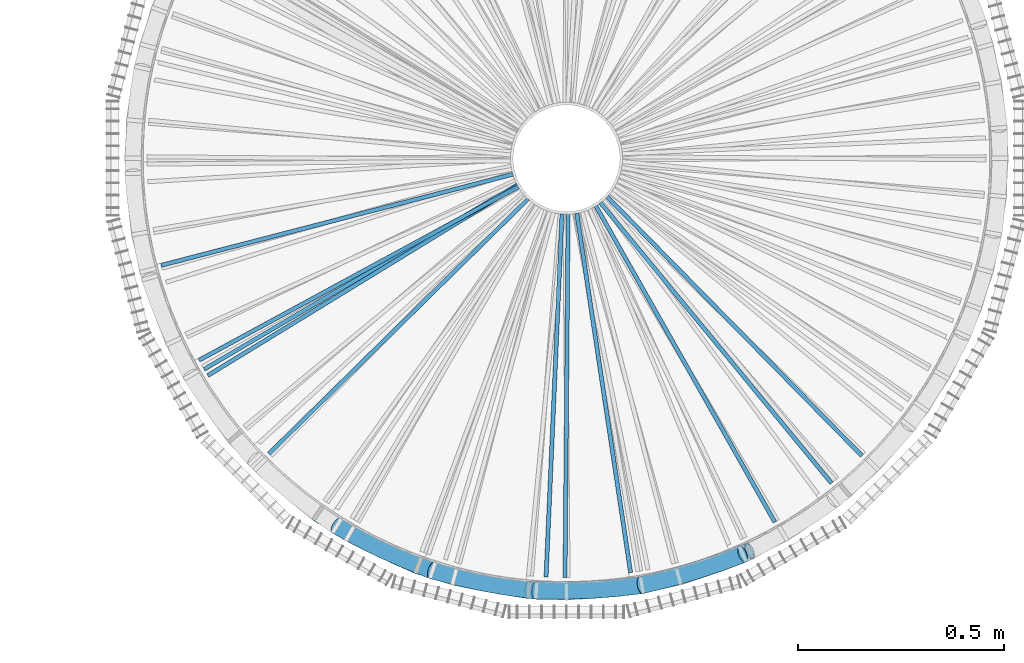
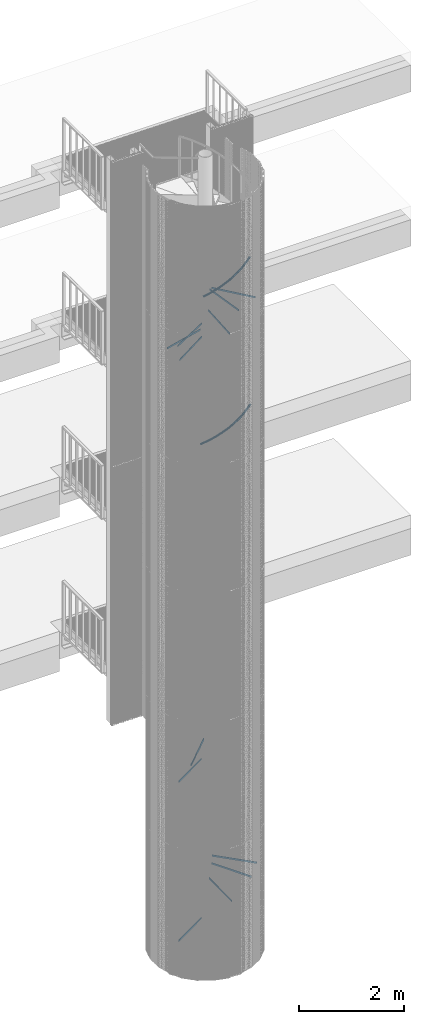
# One storey, part 175 of 1183: 12 beams, 8 members, 10 elements without a shape of their own.
"""IFC2X3 building model written with IfcOpenShell, lengths in millimetres."""

from ifc_helpers import new_model, entity, si_unit, frame, origin_with_axes, origin_2d_with_axis, place, context, subcontext, project, spatial, polyline, rectangle, outline, extrude, boolean, material, type_object, element, aggregate, save


model = new_model("IFC2X3")

# Units and contexts
model_context = context("Model", 3, precision=1e-05, world=origin_with_axes())
body_context = subcontext(model_context, "Body", "Model", "MODEL_VIEW")
ifc_project = project(units=[si_unit("LENGTHUNIT", "METRE", prefix="MILLI"), si_unit("AREAUNIT", "SQUARE_METRE"), si_unit("VOLUMEUNIT", "CUBIC_METRE"), si_unit("MASSUNIT", "GRAM", prefix="KILO"), si_unit("TIMEUNIT", "SECOND"), si_unit("PLANEANGLEUNIT", "RADIAN"), si_unit("SOLIDANGLEUNIT", "STERADIAN"), si_unit("THERMODYNAMICTEMPERATUREUNIT", "DEGREE_CELSIUS"), si_unit("LUMINOUSINTENSITYUNIT", "LUMEN")], contexts=[model_context])

# Site, building, storey
site_placement = place(None, origin_with_axes())
site = spatial("IfcSite", under=ifc_project, at=site_placement, Name="Undefined", CompositionType="ELEMENT")
building_placement = place(site_placement, origin_with_axes())
building = spatial("IfcBuilding", under=site, at=building_placement, Name="Undefined", CompositionType="ELEMENT")
storey_placement = place(building_placement, origin_with_axes())
storey = spatial("IfcBuildingStorey", under=building, at=storey_placement, Name="Undefined", CompositionType="ELEMENT", Elevation=0.0)

# Assembly, beams
assembly_1_placement = place(storey_placement, origin_with_axes())
assembly_1 = element("IfcElementAssembly", 1, at=assembly_1_placement, inside=storey, Name="POTEAU", AssemblyPlace="NOTDEFINED", PredefinedType="NOTDEFINED")
ifc_material = material(Name="STEEL/S235JR")
beam_type = type_object("IfcBeamType", Name="PL10*40", PredefinedType="NOTDEFINED")
beam_1_placement = place(assembly_1_placement, frame((62.3936675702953, -56.3278473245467, 2139.28), z_axis=(0.0, 0.0, 1.0), x_axis=(0.701092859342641, -0.713069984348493, 0.0)))
beam_1 = element("IfcBeam", 2, at=beam_1_placement, type_object=beam_type, material=ifc_material, Name="RAIDISSEUR", context=body_context, shape_type="CSG", body=[
    boolean("DIFFERENCE", extrude(rectangle(XDim=10.0, YDim=40.0, at=origin_2d_with_axis()), frame((935.982964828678, -2.59787459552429e-14, -3.63797880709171e-12), z_axis=(-1.0, 0.0, 0.0), x_axis=(0.0, -1.0, 0.0)), (0.0, 0.0, 1.0), 935.98), extrude(outline(polyline([(0.0, 0.0), (30.5663019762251, -4.91127138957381e-11), (60.366242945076, 6.80164206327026), (87.9055294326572, 20.0638634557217), (111.803226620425, 39.1216410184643), (130.861004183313, 63.0193382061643), (144.123225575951, 90.5586246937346), (150.9248676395, 120.358565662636), (150.924867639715, 150.924867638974), (144.123225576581, 180.724808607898), (130.86100418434, 208.264095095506), (111.803226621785, 232.161792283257), (87.9055294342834, 251.219569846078), (60.3662429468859, 264.481791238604), (30.5663019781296, 271.283433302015), (1.90266291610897e-09, 271.28343330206), (-29.7999409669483, 264.481791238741), (-57.3392274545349, 251.219569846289), (-81.2369246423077, 232.161792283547), (-100.294702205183, 208.26409509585), (-113.556923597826, 180.724808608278), (-120.35856566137, 150.92486763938), (-120.358565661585, 120.358565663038), (-113.556923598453, 90.5586246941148), (-100.294702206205, 63.0193382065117), (-81.2369246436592, 39.1216410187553), (-57.3392274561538, 20.0638634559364), (-29.7999409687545, 6.80164206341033), (0.0, 0.0)])), frame((-182.005487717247, -99.9179528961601, -22.5), z_axis=(0.0, 0.0, 1.0), x_axis=(0.771460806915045, -0.636276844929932, 0.0)), (0.0, 0.0, 1.0), 45.0)),
])
beam_2_placement = place(assembly_1_placement, frame((-56.3278473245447, -62.393667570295, 4920.64), z_axis=(0.0, 0.0, 1.0), x_axis=(-0.713069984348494, -0.70109285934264, 0.0)))
beam_2 = element("IfcBeam", 3, at=beam_2_placement, type_object=beam_type, material=ifc_material, Name="RAIDISSEUR", context=body_context, shape_type="CSG", body=[
    boolean("DIFFERENCE", extrude(rectangle(XDim=10.0, YDim=40.0, at=origin_2d_with_axis()), frame((935.982964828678, -2.59787459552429e-14, -3.63797880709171e-12), z_axis=(-1.0, 0.0, 0.0), x_axis=(0.0, -1.0, 0.0)), (0.0, 0.0, 1.0), 935.98), extrude(outline(polyline([(0.0, 0.0), (30.5663019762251, -4.91127138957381e-11), (60.366242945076, 6.80164206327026), (87.9055294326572, 20.0638634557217), (111.803226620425, 39.1216410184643), (130.861004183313, 63.0193382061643), (144.123225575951, 90.5586246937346), (150.9248676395, 120.358565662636), (150.924867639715, 150.924867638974), (144.123225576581, 180.724808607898), (130.86100418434, 208.264095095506), (111.803226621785, 232.161792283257), (87.9055294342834, 251.219569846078), (60.3662429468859, 264.481791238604), (30.5663019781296, 271.283433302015), (1.90266291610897e-09, 271.28343330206), (-29.7999409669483, 264.481791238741), (-57.3392274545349, 251.219569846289), (-81.2369246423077, 232.161792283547), (-100.294702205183, 208.26409509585), (-113.556923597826, 180.724808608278), (-120.35856566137, 150.92486763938), (-120.358565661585, 120.358565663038), (-113.556923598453, 90.5586246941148), (-100.294702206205, 63.0193382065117), (-81.2369246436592, 39.1216410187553), (-57.3392274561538, 20.0638634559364), (-29.7999409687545, 6.80164206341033), (0.0, 0.0)])), frame((11.0085008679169, -103.09603572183, -22.4999999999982), z_axis=(0.0, 0.0, 1.0), x_axis=(0.636276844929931, 0.771460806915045, 0.0)), (0.0, 0.0, 1.0), 45.0)),
])
beam_3_placement = place(assembly_1_placement, frame((-74.8463745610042, -38.2598530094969, 748.6), z_axis=(0.0, 0.0, 1.0), x_axis=(-0.861759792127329, -0.507316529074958, 0.0)))
beam_3 = element("IfcBeam", 4, at=beam_3_placement, type_object=beam_type, material=ifc_material, Name="RAIDISSEUR", context=body_context, shape_type="CSG", body=[
    boolean("DIFFERENCE", extrude(rectangle(XDim=10.0, YDim=40.0, at=origin_2d_with_axis()), frame((935.982964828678, -2.59787459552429e-14, -3.63797880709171e-12), z_axis=(-1.0, 0.0, 0.0), x_axis=(0.0, -1.0, 0.0)), (0.0, 0.0, 1.0), 935.98), extrude(outline(polyline([(0.0, 0.0), (30.5663019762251, -4.91127138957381e-11), (60.366242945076, 6.80164206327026), (87.9055294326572, 20.0638634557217), (111.803226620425, 39.1216410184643), (130.861004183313, 63.0193382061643), (144.123225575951, 90.5586246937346), (150.9248676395, 120.358565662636), (150.924867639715, 150.924867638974), (144.123225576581, 180.724808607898), (130.86100418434, 208.264095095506), (111.803226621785, 232.161792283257), (87.9055294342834, 251.219569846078), (60.3662429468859, 264.481791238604), (30.5663019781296, 271.283433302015), (1.90266291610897e-09, 271.28343330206), (-29.7999409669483, 264.481791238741), (-57.3392274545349, 251.219569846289), (-81.2369246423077, 232.161792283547), (-100.294702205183, 208.26409509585), (-113.556923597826, 180.724808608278), (-120.35856566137, 150.92486763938), (-120.358565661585, 120.358565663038), (-113.556923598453, 90.5586246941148), (-100.294702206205, 63.0193382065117), (-81.2369246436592, 39.1216410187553), (-57.3392274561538, 20.0638634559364), (-29.7999409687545, 6.80164206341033), (0.0, 0.0)])), frame((31.9577797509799, -67.1597852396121, -22.5000000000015), z_axis=(0.0, 0.0, 1.0), x_axis=(0.430278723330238, 0.902696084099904, 0.0)), (0.0, 0.0, 1.0), 45.0)),
])
beam_4_placement = place(assembly_1_placement, frame((4.28918262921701, -83.9487882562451, 1675.72), z_axis=(0.0, 0.0, 1.0), x_axis=(-0.00846910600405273, -0.99996413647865, 0.0)))
beam_4 = element("IfcBeam", 5, at=beam_4_placement, type_object=beam_type, material=ifc_material, Name="RAIDISSEUR", context=body_context, shape_type="CSG", body=[
    boolean("DIFFERENCE", extrude(rectangle(XDim=10.0, YDim=40.0, at=origin_2d_with_axis()), frame((935.982964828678, -2.59787459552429e-14, -3.63797880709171e-12), z_axis=(-1.0, 0.0, 0.0), x_axis=(0.0, -1.0, 0.0)), (0.0, 0.0, 1.0), 935.98), extrude(outline(polyline([(0.0, 0.0), (30.5663019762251, -4.91127138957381e-11), (60.366242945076, 6.80164206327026), (87.9055294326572, 20.0638634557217), (111.803226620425, 39.1216410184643), (130.861004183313, 63.0193382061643), (144.123225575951, 90.5586246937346), (150.9248676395, 120.358565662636), (150.924867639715, 150.924867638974), (144.123225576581, 180.724808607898), (130.86100418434, 208.264095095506), (111.803226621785, 232.161792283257), (87.9055294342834, 251.219569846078), (60.3662429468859, 264.481791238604), (30.5663019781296, 271.283433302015), (1.90266291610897e-09, 271.28343330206), (-29.7999409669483, 264.481791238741), (-57.3392274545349, 251.219569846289), (-81.2369246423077, 232.161792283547), (-100.294702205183, 208.26409509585), (-113.556923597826, 180.724808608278), (-120.35856566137, 150.92486763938), (-120.358565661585, 120.358565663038), (-113.556923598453, 90.5586246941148), (-100.294702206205, 63.0193382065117), (-81.2369246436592, 39.1216410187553), (-57.3392274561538, 20.0638634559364), (-29.7999409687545, 6.80164206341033), (0.0, 0.0)])), frame((-86.1566959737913, -141.48150018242, -22.4999999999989), z_axis=(0.0, 0.0, 1.0), x_axis=(0.995420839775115, 0.0955894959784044, 0.0)), (0.0, 0.0, 1.0), 45.0)),
])
beam_5_placement = place(assembly_1_placement, frame((-74.8463745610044, -38.2598530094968, 4457.08), z_axis=(0.0, 0.0, 1.0), x_axis=(-0.861759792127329, -0.507316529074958, 0.0)))
beam_5 = element("IfcBeam", 6, at=beam_5_placement, type_object=beam_type, material=ifc_material, Name="RAIDISSEUR", context=body_context, shape_type="CSG", body=[
    boolean("DIFFERENCE", extrude(rectangle(XDim=10.0, YDim=40.0, at=origin_2d_with_axis()), frame((935.982964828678, -2.59787459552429e-14, -3.63797880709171e-12), z_axis=(-1.0, 0.0, 0.0), x_axis=(0.0, -1.0, 0.0)), (0.0, 0.0, 1.0), 935.98), extrude(outline(polyline([(0.0, 0.0), (30.5663019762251, -4.91127138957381e-11), (60.366242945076, 6.80164206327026), (87.9055294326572, 20.0638634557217), (111.803226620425, 39.1216410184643), (130.861004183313, 63.0193382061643), (144.123225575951, 90.5586246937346), (150.9248676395, 120.358565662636), (150.924867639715, 150.924867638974), (144.123225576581, 180.724808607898), (130.86100418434, 208.264095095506), (111.803226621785, 232.161792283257), (87.9055294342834, 251.219569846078), (60.3662429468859, 264.481791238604), (30.5663019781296, 271.283433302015), (1.90266291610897e-09, 271.28343330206), (-29.7999409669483, 264.481791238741), (-57.3392274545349, 251.219569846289), (-81.2369246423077, 232.161792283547), (-100.294702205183, 208.26409509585), (-113.556923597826, 180.724808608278), (-120.35856566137, 150.92486763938), (-120.358565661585, 120.358565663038), (-113.556923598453, 90.5586246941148), (-100.294702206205, 63.0193382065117), (-81.2369246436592, 39.1216410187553), (-57.3392274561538, 20.0638634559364), (-29.7999409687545, 6.80164206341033), (0.0, 0.0)])), frame((31.9577797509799, -67.1597852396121, -22.5000000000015), z_axis=(0.0, 0.0, 1.0), x_axis=(0.430278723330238, 0.902696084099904, 0.0)), (0.0, 0.0, 1.0), 45.0)),
])
beam_6_placement = place(assembly_1_placement, frame((45.6889352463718, -70.5571919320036, 1984.76), z_axis=(0.0, 0.0, 1.0), x_axis=(0.492647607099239, -0.870228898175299, 0.0)))
beam_6 = element("IfcBeam", 7, at=beam_6_placement, type_object=beam_type, material=ifc_material, Name="RAIDISSEUR", context=body_context, shape_type="CSG", body=[
    boolean("DIFFERENCE", extrude(rectangle(XDim=10.0, YDim=40.0, at=origin_2d_with_axis()), frame((935.982964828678, -2.59787459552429e-14, -3.63797880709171e-12), z_axis=(-1.0, 0.0, 0.0), x_axis=(0.0, -1.0, 0.0)), (0.0, 0.0, 1.0), 935.98), extrude(outline(polyline([(0.0, 0.0), (30.5663019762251, -4.91127138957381e-11), (60.366242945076, 6.80164206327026), (87.9055294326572, 20.0638634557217), (111.803226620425, 39.1216410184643), (130.861004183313, 63.0193382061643), (144.123225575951, 90.5586246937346), (150.9248676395, 120.358565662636), (150.924867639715, 150.924867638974), (144.123225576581, 180.724808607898), (130.86100418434, 208.264095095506), (111.803226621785, 232.161792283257), (87.9055294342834, 251.219569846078), (60.3662429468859, 264.481791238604), (30.5663019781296, 271.283433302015), (1.90266291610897e-09, 271.28343330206), (-29.7999409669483, 264.481791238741), (-57.3392274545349, 251.219569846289), (-81.2369246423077, 232.161792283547), (-100.294702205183, 208.26409509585), (-113.556923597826, 180.724808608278), (-120.35856566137, 150.92486763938), (-120.358565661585, 120.358565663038), (-113.556923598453, 90.5586246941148), (-100.294702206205, 63.0193382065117), (-81.2369246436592, 39.1216410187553), (-57.3392274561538, 20.0638634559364), (-29.7999409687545, 6.80164206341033), (0.0, 0.0)])), frame((-154.096372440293, -122.072824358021, -22.5000000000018), z_axis=(0.0, 0.0, 1.0), x_axis=(0.909854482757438, -0.414927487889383, 0.0)), (0.0, 0.0, 1.0), 45.0)),
])
aggregate(assembly_1, [beam_1, beam_2, beam_3, beam_4, beam_5, beam_6])

assembly_2_placement = place(storey_placement, origin_with_axes())
assembly_2 = element("IfcElementAssembly", 8, at=assembly_2_placement, inside=storey, Name="POTEAU", AssemblyPlace="NOTDEFINED", PredefinedType="NOTDEFINED")
beam_7_placement = place(assembly_2_placement, frame((-71.3438275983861, -44.450583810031, 14605.12), z_axis=(0.0, 0.0, 1.0), x_axis=(-0.878694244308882, -0.477384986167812, 0.0)))
beam_7 = element("IfcBeam", 9, at=beam_7_placement, type_object=beam_type, material=ifc_material, Name="RAIDISSEUR", context=body_context, shape_type="CSG", body=[
    boolean("DIFFERENCE", extrude(rectangle(XDim=10.0, YDim=40.0, at=origin_2d_with_axis()), frame((935.982964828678, -2.59787459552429e-14, -3.63797880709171e-12), z_axis=(-1.0, 0.0, 0.0), x_axis=(0.0, -1.0, 0.0)), (0.0, 0.0, 1.0), 935.98), extrude(outline(polyline([(0.0, 0.0), (30.5663019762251, -4.91127138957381e-11), (60.366242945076, 6.80164206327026), (87.9055294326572, 20.0638634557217), (111.803226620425, 39.1216410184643), (130.861004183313, 63.0193382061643), (144.123225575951, 90.5586246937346), (150.9248676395, 120.358565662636), (150.924867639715, 150.924867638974), (144.123225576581, 180.724808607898), (130.86100418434, 208.264095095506), (111.803226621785, 232.161792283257), (87.9055294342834, 251.219569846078), (60.3662429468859, 264.481791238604), (30.5663019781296, 271.283433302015), (1.90266291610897e-09, 271.28343330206), (-29.7999409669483, 264.481791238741), (-57.3392274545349, 251.219569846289), (-81.2369246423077, 232.161792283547), (-100.294702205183, 208.26409509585), (-113.556923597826, 180.724808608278), (-120.35856566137, 150.92486763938), (-120.358565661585, 120.358565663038), (-113.556923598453, 90.5586246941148), (-100.294702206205, 63.0193382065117), (-81.2369246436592, 39.1216410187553), (-57.3392274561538, 20.0638634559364), (-29.7999409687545, 6.80164206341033), (0.0, 0.0)])), frame((34.3704722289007, -73.133028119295, -22.5), z_axis=(0.0, 0.0, 1.0), x_axis=(0.398985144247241, 0.916957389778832, 0.0)), (0.0, 0.0, 1.0), 45.0)),
])
beam_8_placement = place(assembly_2_placement, frame((-79.9781805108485, -25.8705774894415, 14448.6), z_axis=(0.0, 0.0, 1.0), x_axis=(-0.968083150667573, -0.250629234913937, 0.0)))
beam_8 = element("IfcBeam", 10, at=beam_8_placement, type_object=beam_type, material=ifc_material, Name="RAIDISSEUR", context=body_context, shape_type="CSG", body=[
    boolean("DIFFERENCE", extrude(rectangle(XDim=10.0, YDim=40.0, at=origin_2d_with_axis()), frame((935.982964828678, -2.59787459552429e-14, -3.63797880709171e-12), z_axis=(-1.0, 0.0, 0.0), x_axis=(0.0, -1.0, 0.0)), (0.0, 0.0, 1.0), 935.98), extrude(outline(polyline([(0.0, 0.0), (30.5663019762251, -4.91127138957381e-11), (60.366242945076, 6.80164206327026), (87.9055294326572, 20.0638634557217), (111.803226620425, 39.1216410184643), (130.861004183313, 63.0193382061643), (144.123225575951, 90.5586246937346), (150.9248676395, 120.358565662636), (150.924867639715, 150.924867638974), (144.123225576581, 180.724808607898), (130.86100418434, 208.264095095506), (111.803226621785, 232.161792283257), (87.9055294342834, 251.219569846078), (60.3662429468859, 264.481791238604), (30.5663019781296, 271.283433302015), (1.90266291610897e-09, 271.28343330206), (-29.7999409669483, 264.481791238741), (-57.3392274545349, 251.219569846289), (-81.2369246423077, 232.161792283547), (-100.294702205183, 208.26409509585), (-113.556923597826, 180.724808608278), (-120.35856566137, 150.92486763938), (-120.358565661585, 120.358565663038), (-113.556923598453, 90.5586246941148), (-100.294702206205, 63.0193382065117), (-81.2369246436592, 39.1216410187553), (-57.3392274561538, 20.0638634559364), (-29.7999409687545, 6.80164206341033), (0.0, 0.0)])), frame((47.3399242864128, -42.4946825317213, -22.4999999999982), z_axis=(0.0, 0.0, 1.0), x_axis=(0.165301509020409, 0.986243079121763, 0.0)), (0.0, 0.0, 1.0), 45.0)),
])
beam_9_placement = place(assembly_2_placement, frame((-74.1672485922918, -39.5602751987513, 14292.08), z_axis=(0.0, 0.0, 1.0), x_axis=(-0.852774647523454, -0.522279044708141, 0.0)))
beam_9 = element("IfcBeam", 11, at=beam_9_placement, type_object=beam_type, material=ifc_material, Name="RAIDISSEUR", context=body_context, shape_type="CSG", body=[
    boolean("DIFFERENCE", extrude(rectangle(XDim=10.0, YDim=40.0, at=origin_2d_with_axis()), frame((935.982964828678, -2.59787459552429e-14, -3.63797880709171e-12), z_axis=(-1.0, 0.0, 0.0), x_axis=(0.0, -1.0, 0.0)), (0.0, 0.0, 1.0), 935.98), extrude(outline(polyline([(0.0, 0.0), (30.5663019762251, -4.91127138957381e-11), (60.366242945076, 6.80164206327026), (87.9055294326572, 20.0638634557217), (111.803226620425, 39.1216410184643), (130.861004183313, 63.0193382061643), (144.123225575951, 90.5586246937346), (150.9248676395, 120.358565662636), (150.924867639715, 150.924867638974), (144.123225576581, 180.724808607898), (130.86100418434, 208.264095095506), (111.803226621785, 232.161792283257), (87.9055294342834, 251.219569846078), (60.3662429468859, 264.481791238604), (30.5663019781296, 271.283433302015), (1.90266291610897e-09, 271.28343330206), (-29.7999409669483, 264.481791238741), (-57.3392274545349, 251.219569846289), (-81.2369246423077, 232.161792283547), (-100.294702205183, 208.26409509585), (-113.556923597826, 180.724808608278), (-120.35856566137, 150.92486763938), (-120.358565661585, 120.358565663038), (-113.556923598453, 90.5586246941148), (-100.294702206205, 63.0193382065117), (-81.2369246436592, 39.1216410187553), (-57.3392274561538, 20.0638634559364), (-29.7999409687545, 6.80164206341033), (0.0, 0.0)])), frame((30.6807706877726, -69.1709569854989, -22.5), z_axis=(0.0, 0.0, 1.0), x_axis=(0.445967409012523, 0.895049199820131, 0.0)), (0.0, 0.0, 1.0), 45.0)),
])
beam_10_placement = place(assembly_2_placement, frame((-8.67684456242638, -83.6092608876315, 14918.16), z_axis=(0.0, 0.0, 1.0), x_axis=(-0.0438765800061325, -0.999036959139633, 0.0)))
beam_10 = element("IfcBeam", 12, at=beam_10_placement, type_object=beam_type, material=ifc_material, Name="RAIDISSEUR", context=body_context, shape_type="CSG", body=[
    boolean("DIFFERENCE", extrude(rectangle(XDim=10.0, YDim=40.0, at=origin_2d_with_axis()), frame((935.982964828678, -2.59787459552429e-14, -3.63797880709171e-12), z_axis=(-1.0, 0.0, 0.0), x_axis=(0.0, -1.0, 0.0)), (0.0, 0.0, 1.0), 935.98), extrude(outline(polyline([(0.0, 0.0), (30.5663019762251, -4.91127138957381e-11), (60.366242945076, 6.80164206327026), (87.9055294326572, 20.0638634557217), (111.803226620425, 39.1216410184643), (130.861004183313, 63.0193382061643), (144.123225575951, 90.5586246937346), (150.9248676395, 120.358565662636), (150.924867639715, 150.924867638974), (144.123225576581, 180.724808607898), (130.86100418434, 208.264095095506), (111.803226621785, 232.161792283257), (87.9055294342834, 251.219569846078), (60.3662429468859, 264.481791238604), (30.5663019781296, 271.283433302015), (1.90266291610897e-09, 271.28343330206), (-29.7999409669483, 264.481791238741), (-57.3392274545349, 251.219569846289), (-81.2369246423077, 232.161792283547), (-100.294702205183, 208.26409509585), (-113.556923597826, 180.724808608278), (-120.35856566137, 150.92486763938), (-120.358565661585, 120.358565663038), (-113.556923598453, 90.5586246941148), (-100.294702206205, 63.0193382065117), (-81.2369246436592, 39.1216410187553), (-57.3392274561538, 20.0638634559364), (-29.7999409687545, 6.80164206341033), (0.0, 0.0)])), frame((-81.32192277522, -131.47547287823, -22.4999999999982), z_axis=(0.0, 0.0, 1.0), x_axis=(0.991411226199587, 0.130781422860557, 0.0)), (0.0, 0.0, 1.0), 45.0)),
])
beam_11_placement = place(assembly_2_placement, frame((17.3688594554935, -82.2442633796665, 15387.72), z_axis=(0.0, 0.0, 1.0), x_axis=(0.148064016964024, -0.988977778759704, 0.0)))
beam_11 = element("IfcBeam", 13, at=beam_11_placement, type_object=beam_type, material=ifc_material, Name="RAIDISSEUR", context=body_context, shape_type="CSG", body=[
    boolean("DIFFERENCE", extrude(rectangle(XDim=10.0, YDim=40.0, at=origin_2d_with_axis()), frame((935.982964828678, -2.59787459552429e-14, -3.63797880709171e-12), z_axis=(-1.0, 0.0, 0.0), x_axis=(0.0, -1.0, 0.0)), (0.0, 0.0, 1.0), 935.98), extrude(outline(polyline([(0.0, 0.0), (30.5663019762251, -4.91127138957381e-11), (60.366242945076, 6.80164206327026), (87.9055294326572, 20.0638634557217), (111.803226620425, 39.1216410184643), (130.861004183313, 63.0193382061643), (144.123225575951, 90.5586246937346), (150.9248676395, 120.358565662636), (150.924867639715, 150.924867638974), (144.123225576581, 180.724808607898), (130.86100418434, 208.264095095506), (111.803226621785, 232.161792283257), (87.9055294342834, 251.219569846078), (60.3662429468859, 264.481791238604), (30.5663019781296, 271.283433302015), (1.90266291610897e-09, 271.28343330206), (-29.7999409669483, 264.481791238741), (-57.3392274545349, 251.219569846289), (-81.2369246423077, 232.161792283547), (-100.294702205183, 208.26409509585), (-113.556923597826, 180.724808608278), (-120.35856566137, 150.92486763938), (-120.358565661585, 120.358565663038), (-113.556923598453, 90.5586246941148), (-100.294702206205, 63.0193382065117), (-81.2369246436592, 39.1216410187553), (-57.3392274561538, 20.0638634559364), (-29.7999409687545, 6.80164206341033), (0.0, 0.0)])), frame((-107.479439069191, -139.449640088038, -22.5000000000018), z_axis=(0.0, 0.0, 1.0), x_axis=(0.998119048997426, -0.0613054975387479, 0.0)), (0.0, 0.0, 1.0), 45.0)),
])
beam_12_placement = place(assembly_2_placement, frame((49.497363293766, -67.9397318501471, 15387.72), z_axis=(0.0, 0.0, 1.0), x_axis=(0.635879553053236, -0.771788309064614, 0.0)))
beam_12 = element("IfcBeam", 14, at=beam_12_placement, type_object=beam_type, material=ifc_material, Name="RAIDISSEUR", context=body_context, shape_type="CSG", body=[
    boolean("DIFFERENCE", extrude(rectangle(XDim=10.0, YDim=40.0, at=origin_2d_with_axis()), frame((935.982964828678, -2.59787459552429e-14, -3.63797880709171e-12), z_axis=(-1.0, 0.0, 0.0), x_axis=(0.0, -1.0, 0.0)), (0.0, 0.0, 1.0), 935.98), extrude(outline(polyline([(0.0, 0.0), (30.5663019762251, -4.91127138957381e-11), (60.366242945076, 6.80164206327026), (87.9055294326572, 20.0638634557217), (111.803226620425, 39.1216410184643), (130.861004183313, 63.0193382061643), (144.123225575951, 90.5586246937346), (150.9248676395, 120.358565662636), (150.924867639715, 150.924867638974), (144.123225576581, 180.724808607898), (130.86100418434, 208.264095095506), (111.803226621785, 232.161792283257), (87.9055294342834, 251.219569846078), (60.3662429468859, 264.481791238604), (30.5663019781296, 271.283433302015), (1.90266291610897e-09, 271.28343330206), (-29.7999409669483, 264.481791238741), (-57.3392274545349, 251.219569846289), (-81.2369246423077, 232.161792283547), (-100.294702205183, 208.26409509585), (-113.556923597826, 180.724808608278), (-120.35856566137, 150.92486763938), (-120.358565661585, 120.358565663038), (-113.556923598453, 90.5586246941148), (-100.294702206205, 63.0193382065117), (-81.2369246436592, 39.1216410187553), (-57.3392274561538, 20.0638634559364), (-29.7999409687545, 6.80164206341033), (0.0, 0.0)])), frame((-173.306458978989, -98.1524364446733, -22.5), z_axis=(0.0, 0.0, 1.0), x_axis=(0.824271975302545, -0.56619405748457, 0.0)), (0.0, 0.0, 1.0), 45.0)),
])
aggregate(assembly_2, [beam_7, beam_8, beam_9, beam_10, beam_11, beam_12])

# Assembly, member
assembly_3_placement = place(storey_placement, origin_with_axes())
assembly_3 = element("IfcElementAssembly", 15, at=assembly_3_placement, inside=storey, Name="MONTANT", AssemblyPlace="NOTDEFINED", PredefinedType="NOTDEFINED")
member_type = type_object("IfcMemberType", Name="TUBE-42.4*3.2", PredefinedType="NOTDEFINED")
member_1_placement = place(assembly_3_placement, frame((183.025179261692, -1037.98737168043, 12911.7199999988), z_axis=(0.300705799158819, -0.953716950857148, -4.31926309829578e-10), x_axis=(0.828975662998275, 0.261375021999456, 0.494451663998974)))
member_1 = element("IfcMember", 16, at=member_1_placement, type_object=member_type, material=ifc_material, Name="MAIN_COURANTE", context=body_context, shape_type="SweptSolid", body=[
    entity("IfcRevolvedAreaSolid", entity("IfcCircleHollowProfileDef", "AREA", None, entity("IfcAxis2Placement2D", entity("IfcCartesianPoint", [0.0, 0.0]), entity("IfcDirection", [1.0, 0.0])), 21.200000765, 3.200000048), entity("IfcAxis2Placement3D", entity("IfcCartesianPoint", [316.552681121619, 9.09494701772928e-13, -1.82569453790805e-12]), entity("IfcDirection", [-0.997177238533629, 2.1263748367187e-18, 0.0750836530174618]), entity("IfcDirection", [0.0, -1.0, 0.0])), entity("IfcAxis1Placement", entity("IfcCartesianPoint", [0.0, -2108.0, 0.0]), entity("IfcDirection", [1.0, 0.0, 0.0])), 0.150308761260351),
])
aggregate(assembly_3, [member_1])

assembly_4_placement = place(storey_placement, origin_with_axes())
assembly_4 = element("IfcElementAssembly", 17, at=assembly_4_placement, inside=storey, Name="MONTANT", AssemblyPlace="NOTDEFINED", PredefinedType="NOTDEFINED")
member_2_placement = place(assembly_4_placement, frame((-91.8621528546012, -1049.98921176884, 12755.2000000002), z_axis=(0.0436193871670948, -0.999048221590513, 1.05123035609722e-10), x_axis=(0.868377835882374, 0.0379141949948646, 0.494451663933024)))
member_2 = element("IfcMember", 18, at=member_2_placement, type_object=member_type, material=ifc_material, Name="MAIN_COURANTE", context=body_context, shape_type="SweptSolid", body=[
    entity("IfcRevolvedAreaSolid", entity("IfcCircleHollowProfileDef", "AREA", None, entity("IfcAxis2Placement2D", entity("IfcCartesianPoint", [0.0, 0.0]), entity("IfcDirection", [1.0, 0.0])), 21.200000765, 3.200000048), entity("IfcAxis2Placement3D", entity("IfcCartesianPoint", [316.552681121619, 9.09494701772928e-13, -1.82569453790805e-12]), entity("IfcDirection", [-0.997177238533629, 2.1263748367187e-18, 0.0750836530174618]), entity("IfcDirection", [0.0, -1.0, 0.0])), entity("IfcAxis1Placement", entity("IfcCartesianPoint", [0.0, -2108.0, 0.0]), entity("IfcDirection", [1.0, 0.0, 0.0])), 0.150308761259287),
])
aggregate(assembly_4, [member_2])

assembly_5_placement = place(storey_placement, origin_with_axes())
assembly_5 = element("IfcElementAssembly", 19, at=assembly_5_placement, inside=storey, Name="MONTANT", AssemblyPlace="NOTDEFINED", PredefinedType="NOTDEFINED")
member_3_placement = place(assembly_5_placement, frame((-360.489231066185, -990.436022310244, 12598.6800000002), z_axis=(-0.216439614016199, -0.97629600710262, 3.63797880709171e-12), x_axis=(0.848601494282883, -0.188130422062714, 0.494451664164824)))
member_3 = element("IfcMember", 20, at=member_3_placement, type_object=member_type, material=ifc_material, Name="MAIN_COURANTE", context=body_context, shape_type="SweptSolid", body=[
    entity("IfcRevolvedAreaSolid", entity("IfcCircleHollowProfileDef", "AREA", None, entity("IfcAxis2Placement2D", entity("IfcCartesianPoint", [0.0, 0.0]), entity("IfcDirection", [1.0, 0.0])), 21.200000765, 3.200000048), entity("IfcAxis2Placement3D", entity("IfcCartesianPoint", [316.552681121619, 9.09494701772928e-13, -1.82569453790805e-12]), entity("IfcDirection", [-0.997177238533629, 2.1263748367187e-18, 0.0750836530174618]), entity("IfcDirection", [0.0, -1.0, 0.0])), entity("IfcAxis1Placement", entity("IfcCartesianPoint", [0.0, -2108.0, 0.0]), entity("IfcDirection", [1.0, 0.0, 0.0])), 0.150308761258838),
])
aggregate(assembly_5, [member_3])

assembly_6_placement = place(storey_placement, origin_with_axes())
assembly_6 = element("IfcElementAssembly", 21, at=assembly_6_placement, inside=storey, Name="MONTANT", AssemblyPlace="NOTDEFINED", PredefinedType="NOTDEFINED")
member_4_placement = place(assembly_6_placement, frame((-604.5495639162, -863.386254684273, 12442.1599999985), z_axis=(-0.461748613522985, -0.887010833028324, -2.56448402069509e-10), x_axis=(0.770994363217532, -0.40135426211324, 0.494451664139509)))
member_4 = element("IfcMember", 22, at=member_4_placement, type_object=member_type, material=ifc_material, Name="MAIN_COURANTE", context=body_context, shape_type="SweptSolid", body=[
    entity("IfcRevolvedAreaSolid", entity("IfcCircleHollowProfileDef", "AREA", None, entity("IfcAxis2Placement2D", entity("IfcCartesianPoint", [0.0, 0.0]), entity("IfcDirection", [1.0, 0.0])), 21.200000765, 3.200000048), entity("IfcAxis2Placement3D", entity("IfcCartesianPoint", [316.552681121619, 9.09494701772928e-13, -1.82569453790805e-12]), entity("IfcDirection", [-0.997177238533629, 2.1263748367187e-18, 0.0750836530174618]), entity("IfcDirection", [0.0, -1.0, 0.0])), entity("IfcAxis1Placement", entity("IfcCartesianPoint", [0.0, -2108.0, 0.0]), entity("IfcDirection", [1.0, 0.0, 0.0])), 0.150308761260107),
])
aggregate(assembly_6, [member_4])

assembly_7_placement = place(storey_placement, origin_with_axes())
assembly_7 = element("IfcElementAssembly", 23, at=assembly_7_placement, inside=storey, Name="MONTANT", AssemblyPlace="NOTDEFINED", PredefinedType="NOTDEFINED")
member_5_placement = place(assembly_7_placement, frame((183.025179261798, -1037.98737167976, 16355.2000000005), z_axis=(0.292371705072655, -0.956304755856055, 6.79719960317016e-11), x_axis=(0.81666830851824, 0.249680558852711, 0.520300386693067)))
member_5 = element("IfcMember", 24, at=member_5_placement, type_object=member_type, material=ifc_material, Name="MAIN_COURANTE", context=body_context, shape_type="SweptSolid", body=[
    entity("IfcRevolvedAreaSolid", entity("IfcCircleHollowProfileDef", "AREA", None, entity("IfcAxis2Placement2D", entity("IfcCartesianPoint", [0.0, 0.0]), entity("IfcDirection", [1.0, 0.0])), 21.200000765, 3.200000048), entity("IfcAxis2Placement3D", entity("IfcCartesianPoint", [300.826222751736, 9.26193911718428e-13, -2.55538133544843e-15]), entity("IfcDirection", [-0.997451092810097, -5.56582410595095e-17, 0.0713534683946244]), entity("IfcDirection", [0.0, -1.0, 0.0])), entity("IfcAxis1Placement", entity("IfcCartesianPoint", [0.0, -2108.0, 0.0]), entity("IfcDirection", [1.0, 0.0, 0.0])), 0.142828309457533),
])
aggregate(assembly_7, [member_5])

assembly_8_placement = place(storey_placement, origin_with_axes())
assembly_8 = element("IfcElementAssembly", 25, at=assembly_8_placement, inside=storey, Name="MONTANT", AssemblyPlace="NOTDEFINED", PredefinedType="NOTDEFINED")
member_6_placement = place(assembly_8_placement, frame((-73.5233233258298, -1051.43250895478, 16198.6800000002), z_axis=(0.0523359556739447, -0.998629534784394, -1.91506842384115e-10), x_axis=(0.85281296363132, 0.0446940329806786, 0.520300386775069)))
member_6 = element("IfcMember", 26, at=member_6_placement, type_object=member_type, material=ifc_material, Name="MAIN_COURANTE", context=body_context, shape_type="SweptSolid", body=[
    entity("IfcRevolvedAreaSolid", entity("IfcCircleHollowProfileDef", "AREA", None, entity("IfcAxis2Placement2D", entity("IfcCartesianPoint", [0.0, 0.0]), entity("IfcDirection", [1.0, 0.0])), 21.200000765, 3.200000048), entity("IfcAxis2Placement3D", entity("IfcCartesianPoint", [300.826222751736, 9.26193911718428e-13, -2.55538133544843e-15]), entity("IfcDirection", [-0.997451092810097, -5.56582410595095e-17, 0.0713534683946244]), entity("IfcDirection", [0.0, -1.0, 0.0])), entity("IfcAxis1Placement", entity("IfcCartesianPoint", [0.0, -2108.0, 0.0]), entity("IfcDirection", [1.0, 0.0, 0.0])), 0.142828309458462),
])
aggregate(assembly_8, [member_6])

assembly_9_placement = place(storey_placement, origin_with_axes())
assembly_9 = element("IfcElementAssembly", 27, at=assembly_9_placement, inside=storey, Name="MONTANT", AssemblyPlace="NOTDEFINED", PredefinedType="NOTDEFINED")
member_7_placement = place(assembly_9_placement, frame((-325.703912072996, -1002.41356817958, 16042.1599999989), z_axis=(-0.190808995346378, -0.981627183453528, -1.54434019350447e-10), x_axis=(0.838293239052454, -0.162947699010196, 0.520300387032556)))
member_7 = element("IfcMember", 28, at=member_7_placement, type_object=member_type, material=ifc_material, Name="MAIN_COURANTE", context=body_context, shape_type="SweptSolid", body=[
    entity("IfcRevolvedAreaSolid", entity("IfcCircleHollowProfileDef", "AREA", None, entity("IfcAxis2Placement2D", entity("IfcCartesianPoint", [0.0, 0.0]), entity("IfcDirection", [1.0, 0.0])), 21.200000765, 3.200000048), entity("IfcAxis2Placement3D", entity("IfcCartesianPoint", [300.826222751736, 9.26193911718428e-13, -2.55538133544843e-15]), entity("IfcDirection", [-0.997451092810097, -5.56582410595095e-17, 0.0713534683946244]), entity("IfcDirection", [0.0, -1.0, 0.0])), entity("IfcAxis1Placement", entity("IfcCartesianPoint", [0.0, -2108.0, 0.0]), entity("IfcDirection", [1.0, 0.0, 0.0])), 0.142828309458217),
])
aggregate(assembly_9, [member_7])

assembly_10_placement = place(storey_placement, origin_with_axes())
assembly_10 = element("IfcElementAssembly", 29, at=assembly_10_placement, inside=storey, Name="MONTANT", AssemblyPlace="NOTDEFINED", PredefinedType="NOTDEFINED")
member_8_placement = place(assembly_10_placement, frame((-558.534904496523, -893.84269334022, 15885.6400000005), z_axis=(-0.422618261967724, -0.906307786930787, 0.0), x_axis=(0.773971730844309, -0.3609089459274, 0.520300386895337)))
member_8 = element("IfcMember", 30, at=member_8_placement, type_object=member_type, material=ifc_material, Name="MAIN_COURANTE", context=body_context, shape_type="SweptSolid", body=[
    entity("IfcRevolvedAreaSolid", entity("IfcCircleHollowProfileDef", "AREA", None, entity("IfcAxis2Placement2D", entity("IfcCartesianPoint", [0.0, 0.0]), entity("IfcDirection", [1.0, 0.0])), 21.200000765, 3.200000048), entity("IfcAxis2Placement3D", entity("IfcCartesianPoint", [300.826222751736, 9.26193911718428e-13, -2.55538133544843e-15]), entity("IfcDirection", [-0.997451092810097, -5.56582410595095e-17, 0.0713534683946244]), entity("IfcDirection", [0.0, -1.0, 0.0])), entity("IfcAxis1Placement", entity("IfcCartesianPoint", [0.0, -2108.0, 0.0]), entity("IfcDirection", [1.0, 0.0, 0.0])), 0.142828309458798),
])
aggregate(assembly_10, [member_8])

save(model, "model.ifc")
